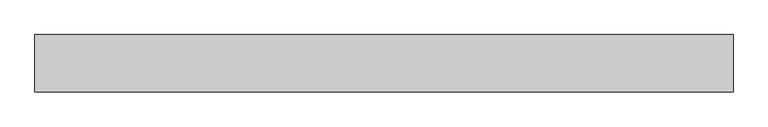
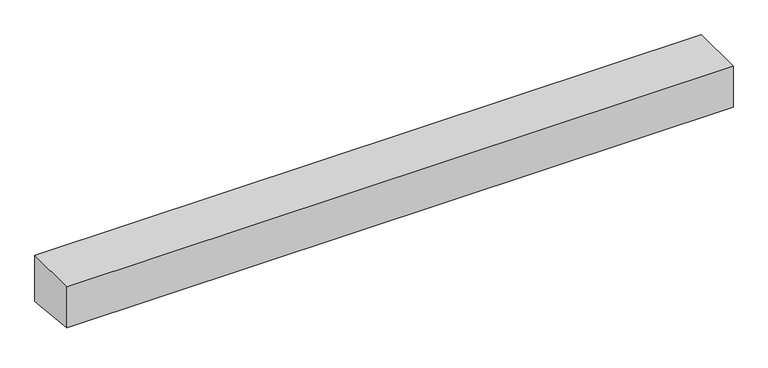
"""IFC4 building model written with IfcOpenShell, lengths in millimetres: proxy geometry, IMPRESS^TABLE 4_2 PC TOP PWR DRAWERS-LT SIDE KEEL."""

from ifc_helpers import new_model, si_unit, frame, origin, place, context, project, spatial, polyline, outline, extrude, source, transform, mapped, element, save


def generic_models_bcc925be(model_context):
    return source(origin(), model_context, "Body", "SweptSolid", [
        extrude(outline(polyline([(0.0, -48.142253), (0.0, 31.75), (101.6, 31.75), (101.6, -58.8208433), (0.0, -48.142253)])), frame((0.0, 0.0, 0.0), z_axis=(1.0, 0.0, 0.0), x_axis=(0.0, 1.0, 0.0)), (0.0, 0.0, 1.0), 1231.9),
    ])


if __name__ == "__main__":
    model = new_model("IFC4")
    model_context = context("Model", 3, world=origin())
    ifc_project = project(units=[si_unit("LENGTHUNIT", "METRE", prefix="MILLI")], contexts=[model_context])
    site = spatial("IfcSite", under=ifc_project)
    building = spatial("IfcBuilding", under=site)
    placement = place(None, origin())
    generic_models_shape = generic_models_bcc925be(model_context)
    element("IfcBuildingElementProxy", 1, Name="IMPRESS^TABLE 4_2 PC TOP PWR DRAWERS-LT SIDE KEEL", ObjectType="IMPRESS^TABLE 4_2 PC TOP PWR DRAWERS-LT SIDE KEEL", at=placement, inside=building, context=model_context, shape_type="MappedRepresentation", body=[
        mapped(generic_models_shape, transform((0.0, 0.0, 0.0), x_axis=(1.0, 0.0, 0.0), y_axis=(0.0, 1.0, 0.0), z_axis=(0.0, 0.0, 1.0))),
    ])
    save(model, "model.ifc")
